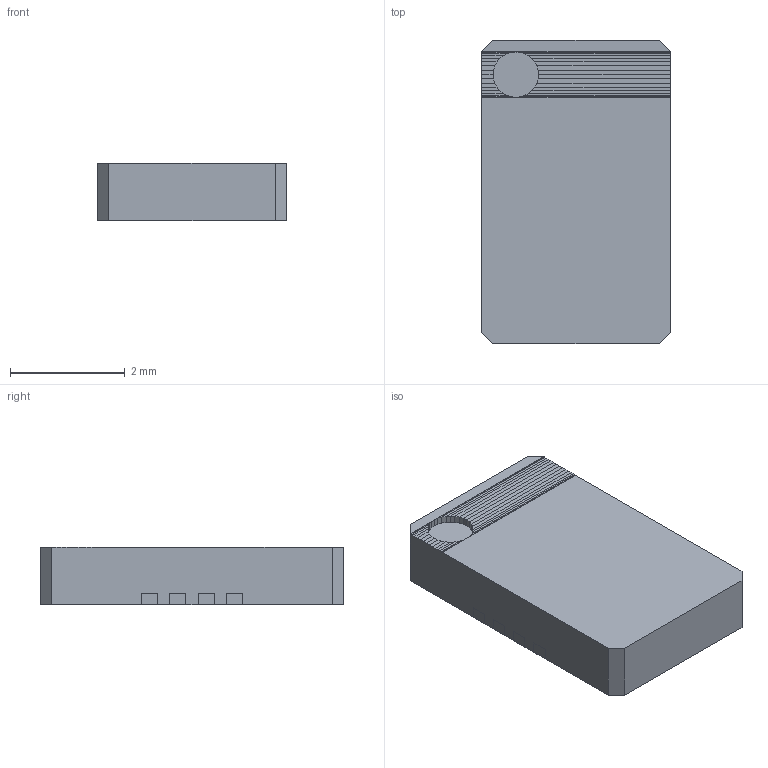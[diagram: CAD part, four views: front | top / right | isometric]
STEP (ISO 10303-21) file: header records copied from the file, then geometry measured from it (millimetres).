
FILE_DESCRIPTION(('shape.step'),'2;1');
FILE_NAME('shape.step','2026-11-13',('tscircuit'),('tscircuit'),'generator','','');
FILE_SCHEMA(('AUTOMOTIVE_DESIGN { 1 0 10303 214 1 1 1 1 }'));
Length unit declared in the file: millimetre
Products named in the file (1): shape
Bounding box: 3.3 x 5.3 x 1 mm (x, y, z)
Volume: 17.8 mm3; surface area: 59.3 mm2
Topology: 10 solids, 10 shells, 130 faces, 296 edges, 186 vertices
Faces by surface type: plane 130
Entity records: 3223 total; most frequent: ORIENTED_EDGE 592, DIRECTION 558, CARTESIAN_POINT 317, VECTOR 296, LINE 296, EDGE_CURVE 296, VERTEX_POINT 186, AXIS2_PLACEMENT_3D 131
